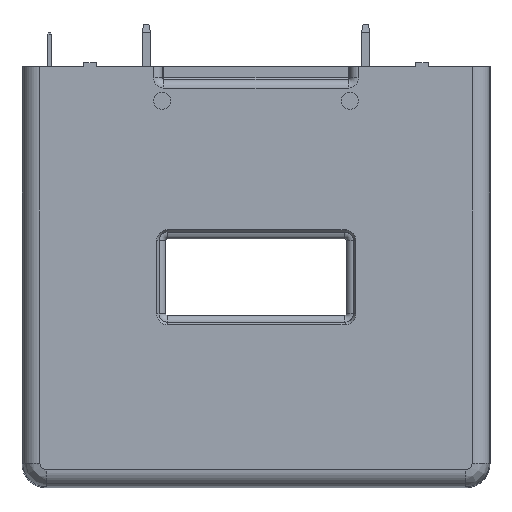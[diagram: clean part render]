
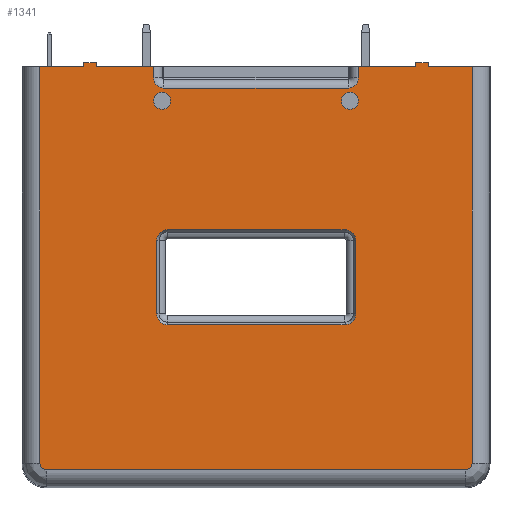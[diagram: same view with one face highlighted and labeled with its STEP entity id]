
A CAD part, top view. The second image highlights one B-rep face of the part: STEP entity #1341.
In plain terms, the highlighted planar face has unit normal (0, 0, 1).
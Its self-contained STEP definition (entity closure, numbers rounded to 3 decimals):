
#848=CIRCLE('',#9668,0.728);
#852=CIRCLE('',#9673,0.728);
#853=CIRCLE('',#9677,1.2);
#854=CIRCLE('',#9678,1.2);
#855=CIRCLE('',#9679,1.269);
#856=CIRCLE('',#9680,1.269);
#857=CIRCLE('',#9681,1.269);
#858=CIRCLE('',#9682,1.269);
#859=CIRCLE('',#9683,1.);
#860=CIRCLE('',#9684,1.);
#991=FACE_BOUND('',#2659,.T.);
#992=FACE_BOUND('',#2660,.T.);
#993=FACE_BOUND('',#2661,.T.);
#994=FACE_BOUND('',#2662,.T.);
#1341=ADVANCED_FACE('',(#991,#992,#993,#994),#1726,.T.);
#1726=PLANE('',#9685);
#2659=EDGE_LOOP('',(#4574,#4575,#4576,#4577,#4578,#4579,#4580,#4581,#4582,
#4583,#4584,#4585,#4586,#4587,#4588,#4589,#4590,#4591,#4592,#4593));
#2660=EDGE_LOOP('',(#4594,#4595,#4596,#4597,#4598,#4599,#4600,#4601));
#2661=EDGE_LOOP('',(#4602));
#2662=EDGE_LOOP('',(#4603));
#4574=ORIENTED_EDGE('',*,*,#6948,.T.);
#4575=ORIENTED_EDGE('',*,*,#6949,.F.);
#4576=ORIENTED_EDGE('',*,*,#6923,.T.);
#4577=ORIENTED_EDGE('',*,*,#6950,.F.);
#4578=ORIENTED_EDGE('',*,*,#6951,.T.);
#4579=ORIENTED_EDGE('',*,*,#6952,.F.);
#4580=ORIENTED_EDGE('',*,*,#6953,.T.);
#4581=ORIENTED_EDGE('',*,*,#6954,.T.);
#4582=ORIENTED_EDGE('',*,*,#6955,.T.);
#4583=ORIENTED_EDGE('',*,*,#6956,.T.);
#4584=ORIENTED_EDGE('',*,*,#6957,.T.);
#4585=ORIENTED_EDGE('',*,*,#6958,.F.);
#4586=ORIENTED_EDGE('',*,*,#6933,.T.);
#4587=ORIENTED_EDGE('',*,*,#6930,.F.);
#4588=ORIENTED_EDGE('',*,*,#6927,.T.);
#4589=ORIENTED_EDGE('',*,*,#6959,.F.);
#4590=ORIENTED_EDGE('',*,*,#6960,.T.);
#4591=ORIENTED_EDGE('',*,*,#6943,.F.);
#4592=ORIENTED_EDGE('',*,*,#6940,.T.);
#4593=ORIENTED_EDGE('',*,*,#6937,.F.);
#4594=ORIENTED_EDGE('',*,*,#6961,.T.);
#4595=ORIENTED_EDGE('',*,*,#6962,.F.);
#4596=ORIENTED_EDGE('',*,*,#6963,.T.);
#4597=ORIENTED_EDGE('',*,*,#6964,.F.);
#4598=ORIENTED_EDGE('',*,*,#6965,.T.);
#4599=ORIENTED_EDGE('',*,*,#6966,.F.);
#4600=ORIENTED_EDGE('',*,*,#6967,.T.);
#4601=ORIENTED_EDGE('',*,*,#6968,.F.);
#4602=ORIENTED_EDGE('',*,*,#6969,.T.);
#4603=ORIENTED_EDGE('',*,*,#6970,.T.);
#5834=VERTEX_POINT('',#15434);
#5837=VERTEX_POINT('',#15439);
#5839=VERTEX_POINT('',#15444);
#5841=VERTEX_POINT('',#15448);
#5843=VERTEX_POINT('',#15453);
#5845=VERTEX_POINT('',#15459);
#5846=VERTEX_POINT('',#15464);
#5849=VERTEX_POINT('',#15469);
#5850=VERTEX_POINT('',#15488);
#5852=VERTEX_POINT('',#15494);
#5854=VERTEX_POINT('',#15522);
#5855=VERTEX_POINT('',#15525);
#5856=VERTEX_POINT('',#15527);
#5857=VERTEX_POINT('',#15529);
#5858=VERTEX_POINT('',#15531);
#5859=VERTEX_POINT('',#15533);
#5860=VERTEX_POINT('',#15535);
#5861=VERTEX_POINT('',#15537);
#5862=VERTEX_POINT('',#15539);
#5863=VERTEX_POINT('',#15542);
#5864=VERTEX_POINT('',#15545);
#5865=VERTEX_POINT('',#15546);
#5866=VERTEX_POINT('',#15548);
#5867=VERTEX_POINT('',#15550);
#5868=VERTEX_POINT('',#15552);
#5869=VERTEX_POINT('',#15554);
#5870=VERTEX_POINT('',#15556);
#5871=VERTEX_POINT('',#15558);
#5872=VERTEX_POINT('',#15561);
#5873=VERTEX_POINT('',#15563);
#6923=EDGE_CURVE('',#5834,#5837,#7948,.T.);
#6927=EDGE_CURVE('',#5839,#5841,#7952,.T.);
#6930=EDGE_CURVE('',#5839,#5843,#7955,.T.);
#6933=EDGE_CURVE('',#5845,#5843,#7958,.T.);
#6937=EDGE_CURVE('',#5849,#5846,#848,.T.);
#6940=EDGE_CURVE('',#5850,#5846,#7960,.T.);
#6943=EDGE_CURVE('',#5850,#5852,#852,.T.);
#6948=EDGE_CURVE('',#5849,#5854,#7965,.T.);
#6949=EDGE_CURVE('',#5834,#5854,#7966,.T.);
#6950=EDGE_CURVE('',#5855,#5837,#7967,.T.);
#6951=EDGE_CURVE('',#5855,#5856,#7968,.T.);
#6952=EDGE_CURVE('',#5857,#5856,#7969,.T.);
#6953=EDGE_CURVE('',#5857,#5858,#7970,.T.);
#6954=EDGE_CURVE('',#5858,#5859,#853,.T.);
#6955=EDGE_CURVE('',#5859,#5860,#7971,.T.);
#6956=EDGE_CURVE('',#5860,#5861,#854,.T.);
#6957=EDGE_CURVE('',#5861,#5862,#7972,.T.);
#6958=EDGE_CURVE('',#5845,#5862,#7973,.T.);
#6959=EDGE_CURVE('',#5863,#5841,#7974,.T.);
#6960=EDGE_CURVE('',#5863,#5852,#7975,.T.);
#6961=EDGE_CURVE('',#5864,#5865,#855,.T.);
#6962=EDGE_CURVE('',#5866,#5865,#7976,.T.);
#6963=EDGE_CURVE('',#5866,#5867,#856,.T.);
#6964=EDGE_CURVE('',#5868,#5867,#7977,.T.);
#6965=EDGE_CURVE('',#5868,#5869,#857,.T.);
#6966=EDGE_CURVE('',#5870,#5869,#7978,.T.);
#6967=EDGE_CURVE('',#5870,#5871,#858,.T.);
#6968=EDGE_CURVE('',#5864,#5871,#7979,.T.);
#6969=EDGE_CURVE('',#5872,#5872,#859,.T.);
#6970=EDGE_CURVE('',#5873,#5873,#860,.T.);
#7948=LINE('',#15440,#8893);
#7952=LINE('',#15449,#8897);
#7955=LINE('',#15455,#8900);
#7958=LINE('',#15461,#8903);
#7960=LINE('',#15491,#8905);
#7965=LINE('',#15521,#8910);
#7966=LINE('',#15523,#8911);
#7967=LINE('',#15524,#8912);
#7968=LINE('',#15526,#8913);
#7969=LINE('',#15528,#8914);
#7970=LINE('',#15530,#8915);
#7971=LINE('',#15534,#8916);
#7972=LINE('',#15538,#8917);
#7973=LINE('',#15540,#8918);
#7974=LINE('',#15541,#8919);
#7975=LINE('',#15543,#8920);
#7976=LINE('',#15547,#8921);
#7977=LINE('',#15551,#8922);
#7978=LINE('',#15555,#8923);
#7979=LINE('',#15559,#8924);
#8893=VECTOR('',#11387,1.);
#8897=VECTOR('',#11393,1.);
#8900=VECTOR('',#11398,1.);
#8903=VECTOR('',#11403,1.);
#8905=VECTOR('',#11417,1.);
#8910=VECTOR('',#11436,1.);
#8911=VECTOR('',#11437,1.);
#8912=VECTOR('',#11438,1.);
#8913=VECTOR('',#11439,1.);
#8914=VECTOR('',#11440,1.);
#8915=VECTOR('',#11441,1.);
#8916=VECTOR('',#11444,1.);
#8917=VECTOR('',#11447,1.);
#8918=VECTOR('',#11448,1.);
#8919=VECTOR('',#11449,1.);
#8920=VECTOR('',#11450,1.);
#8921=VECTOR('',#11453,1.);
#8922=VECTOR('',#11456,1.);
#8923=VECTOR('',#11459,1.);
#8924=VECTOR('',#11462,1.);
#9668=AXIS2_PLACEMENT_3D('',#15470,#11412,#11413);
#9673=AXIS2_PLACEMENT_3D('',#15497,#11424,#11425);
#9677=AXIS2_PLACEMENT_3D('',#15532,#11442,#11443);
#9678=AXIS2_PLACEMENT_3D('',#15536,#11445,#11446);
#9679=AXIS2_PLACEMENT_3D('',#15544,#11451,#11452);
#9680=AXIS2_PLACEMENT_3D('',#15549,#11454,#11455);
#9681=AXIS2_PLACEMENT_3D('',#15553,#11457,#11458);
#9682=AXIS2_PLACEMENT_3D('',#15557,#11460,#11461);
#9683=AXIS2_PLACEMENT_3D('',#15560,#11463,#11464);
#9684=AXIS2_PLACEMENT_3D('',#15562,#11465,#11466);
#9685=AXIS2_PLACEMENT_3D('',#15564,#11467,#11468);
#11387=DIRECTION('',(0.,1.,0.));
#11393=DIRECTION('',(0.,-1.,0.));
#11398=DIRECTION('',(1.,0.,0.));
#11403=DIRECTION('',(0.,1.,0.));
#11412=DIRECTION('',(0.,0.,-1.));
#11413=DIRECTION('',(1.,0.,0.));
#11417=DIRECTION('',(1.,0.,0.));
#11424=DIRECTION('',(0.,0.,-1.));
#11425=DIRECTION('',(1.,0.,0.));
#11436=DIRECTION('',(0.,1.,0.));
#11437=DIRECTION('',(1.,0.,0.));
#11438=DIRECTION('',(1.,0.,0.));
#11439=DIRECTION('',(0.,-1.,0.));
#11440=DIRECTION('',(1.,0.,0.));
#11441=DIRECTION('',(0.,-1.,0.));
#11442=DIRECTION('',(0.,0.,-1.));
#11443=DIRECTION('',(1.,0.,0.));
#11444=DIRECTION('',(-1.,0.,0.));
#11445=DIRECTION('',(0.,0.,-1.));
#11446=DIRECTION('',(1.,0.,0.));
#11447=DIRECTION('',(0.,1.,0.));
#11448=DIRECTION('',(1.,0.,0.));
#11449=DIRECTION('',(1.,0.,0.));
#11450=DIRECTION('',(0.,-1.,0.));
#11451=DIRECTION('',(0.,0.,-1.));
#11452=DIRECTION('',(1.,0.,0.));
#11453=DIRECTION('',(0.,-1.,0.));
#11454=DIRECTION('',(0.,0.,-1.));
#11455=DIRECTION('',(1.,0.,0.));
#11456=DIRECTION('',(-1.,0.,0.));
#11457=DIRECTION('',(0.,0.,-1.));
#11458=DIRECTION('',(1.,0.,0.));
#11459=DIRECTION('',(0.,1.,0.));
#11460=DIRECTION('',(0.,0.,-1.));
#11461=DIRECTION('',(1.,0.,0.));
#11462=DIRECTION('',(1.,0.,0.));
#11463=DIRECTION('',(0.,0.,-1.));
#11464=DIRECTION('',(1.,0.,0.));
#11465=DIRECTION('',(0.,0.,-1.));
#11466=DIRECTION('',(1.,0.,0.));
#11467=DIRECTION('',(0.,0.,1.));
#11468=DIRECTION('',(-1.,0.,0.));
#15434=CARTESIAN_POINT('',(274.85,49.55,30.2));
#15439=CARTESIAN_POINT('',(274.85,50.05,30.2));
#15440=CARTESIAN_POINT('',(274.85,29.05,30.2));
#15444=CARTESIAN_POINT('',(234.3,50.05,30.2));
#15448=CARTESIAN_POINT('',(234.3,49.55,30.2));
#15449=CARTESIAN_POINT('',(234.3,29.05,30.2));
#15453=CARTESIAN_POINT('',(235.8,50.05,30.2));
#15455=CARTESIAN_POINT('',(249.35,50.05,30.2));
#15459=CARTESIAN_POINT('',(235.8,49.55,30.2));
#15461=CARTESIAN_POINT('',(235.8,29.05,30.2));
#15464=CARTESIAN_POINT('',(279.256,2.166,30.2));
#15469=CARTESIAN_POINT('',(279.984,2.894,30.2));
#15470=CARTESIAN_POINT('',(279.256,2.894,30.2));
#15488=CARTESIAN_POINT('',(229.894,2.166,30.2));
#15491=CARTESIAN_POINT('',(254.25,2.166,30.2));
#15494=CARTESIAN_POINT('',(229.166,2.894,30.2));
#15497=CARTESIAN_POINT('',(229.894,2.894,30.2));
#15521=CARTESIAN_POINT('',(279.984,27.,30.2));
#15522=CARTESIAN_POINT('',(279.984,49.55,30.2));
#15523=CARTESIAN_POINT('',(254.25,49.55,30.2));
#15524=CARTESIAN_POINT('',(257.8,50.05,30.2));
#15525=CARTESIAN_POINT('',(273.35,50.05,30.2));
#15526=CARTESIAN_POINT('',(273.35,29.05,30.2));
#15527=CARTESIAN_POINT('',(273.35,49.55,30.2));
#15528=CARTESIAN_POINT('',(254.25,49.55,30.2));
#15529=CARTESIAN_POINT('',(266.625,49.55,30.2));
#15530=CARTESIAN_POINT('',(266.625,31.05,30.2));
#15531=CARTESIAN_POINT('',(266.625,48.25,30.2));
#15532=CARTESIAN_POINT('',(265.425,48.25,30.2));
#15533=CARTESIAN_POINT('',(265.425,47.05,30.2));
#15534=CARTESIAN_POINT('',(253.575,47.05,30.2));
#15535=CARTESIAN_POINT('',(243.725,47.05,30.2));
#15536=CARTESIAN_POINT('',(243.725,48.25,30.2));
#15537=CARTESIAN_POINT('',(242.525,48.25,30.2));
#15538=CARTESIAN_POINT('',(242.525,48.05,30.2));
#15539=CARTESIAN_POINT('',(242.525,49.55,30.2));
#15540=CARTESIAN_POINT('',(269.8,49.55,30.2));
#15541=CARTESIAN_POINT('',(254.25,49.55,30.2));
#15542=CARTESIAN_POINT('',(229.166,49.55,30.2));
#15543=CARTESIAN_POINT('',(229.166,26.75,30.2));
#15544=CARTESIAN_POINT('',(244.161,20.48,30.2));
#15545=CARTESIAN_POINT('',(244.161,19.211,30.2));
#15546=CARTESIAN_POINT('',(242.893,20.48,30.2));
#15547=CARTESIAN_POINT('',(242.893,22.8,30.2));
#15548=CARTESIAN_POINT('',(242.893,29.12,30.2));
#15549=CARTESIAN_POINT('',(244.161,29.12,30.2));
#15550=CARTESIAN_POINT('',(244.161,30.389,30.2));
#15551=CARTESIAN_POINT('',(254.575,30.389,30.2));
#15552=CARTESIAN_POINT('',(265.045,30.389,30.2));
#15553=CARTESIAN_POINT('',(265.045,29.12,30.2));
#15554=CARTESIAN_POINT('',(266.314,29.12,30.2));
#15555=CARTESIAN_POINT('',(266.314,22.8,30.2));
#15556=CARTESIAN_POINT('',(266.314,20.48,30.2));
#15557=CARTESIAN_POINT('',(265.045,20.48,30.2));
#15558=CARTESIAN_POINT('',(265.045,19.211,30.2));
#15559=CARTESIAN_POINT('',(254.575,19.211,30.2));
#15560=CARTESIAN_POINT('',(243.525,45.55,30.2));
#15561=CARTESIAN_POINT('',(244.525,45.55,30.2));
#15562=CARTESIAN_POINT('',(265.625,45.55,30.2));
#15563=CARTESIAN_POINT('',(266.625,45.55,30.2));
#15564=CARTESIAN_POINT('',(254.25,27.,30.2));
